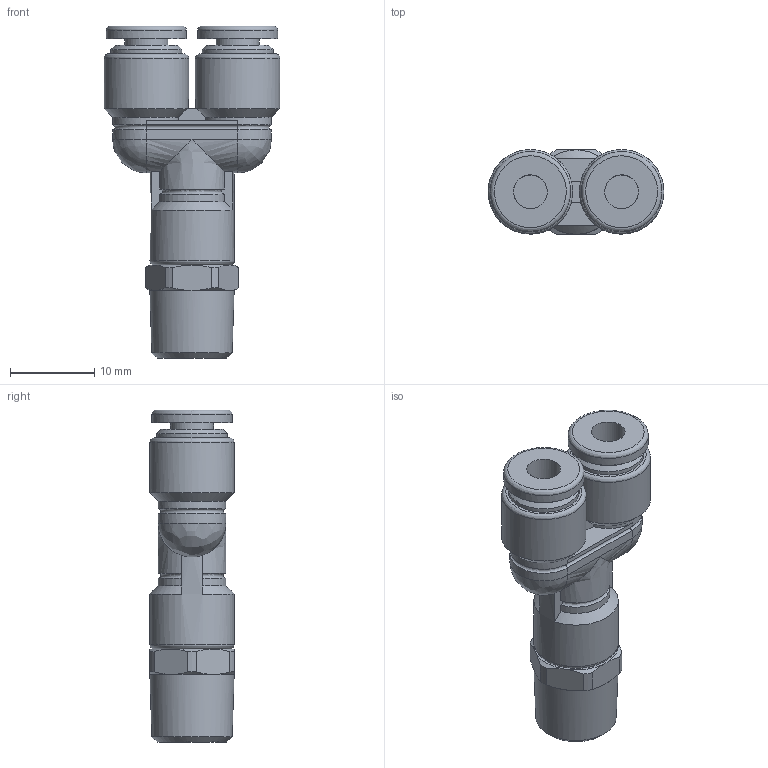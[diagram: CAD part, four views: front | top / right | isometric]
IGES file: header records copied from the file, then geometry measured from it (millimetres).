
Global section: file name: [02] FS4-01MY FS4-01MYW; native system: Autodesk Inventor 2014; preprocessor: unknown; author: kazuhiro.t; date: 20130806.165845; units: millimetre
Bounding box: 20.8 x 10 x 39.3 mm (x, y, z)
Volume: 3578.3 mm3; surface area: 2433.6 mm2
Topology: 1 solids, 1 shells, 92 faces, 212 edges, 128 vertices
Faces by surface type: bspline 92
